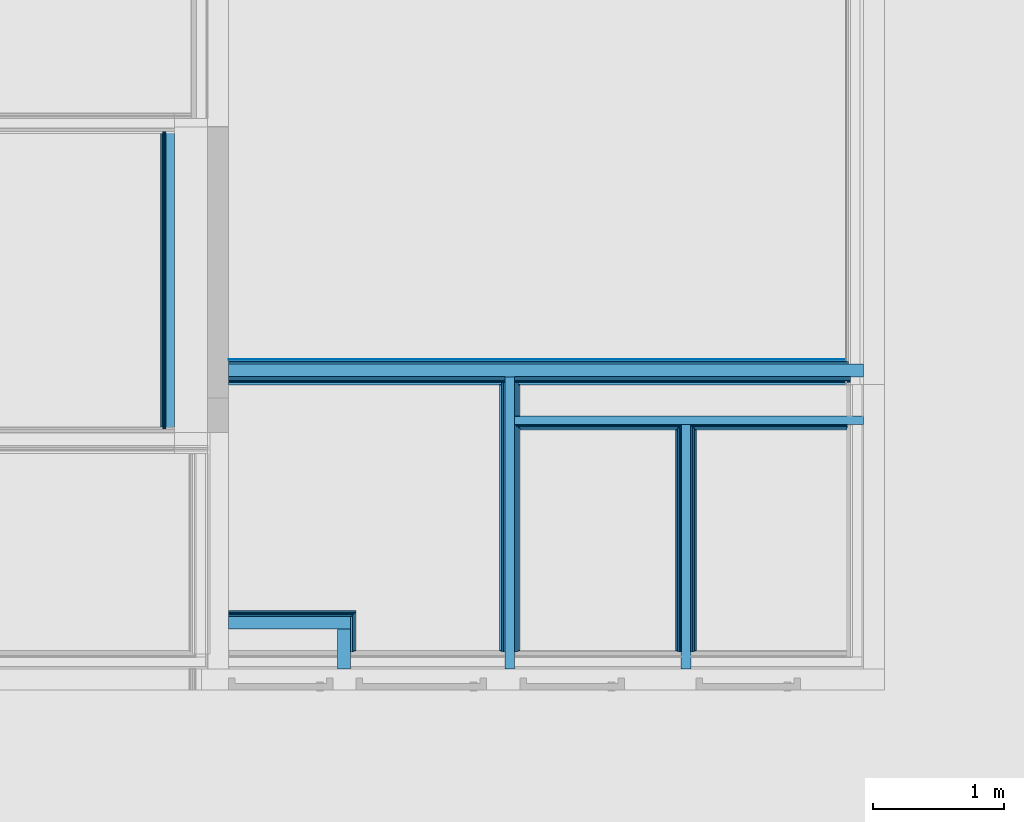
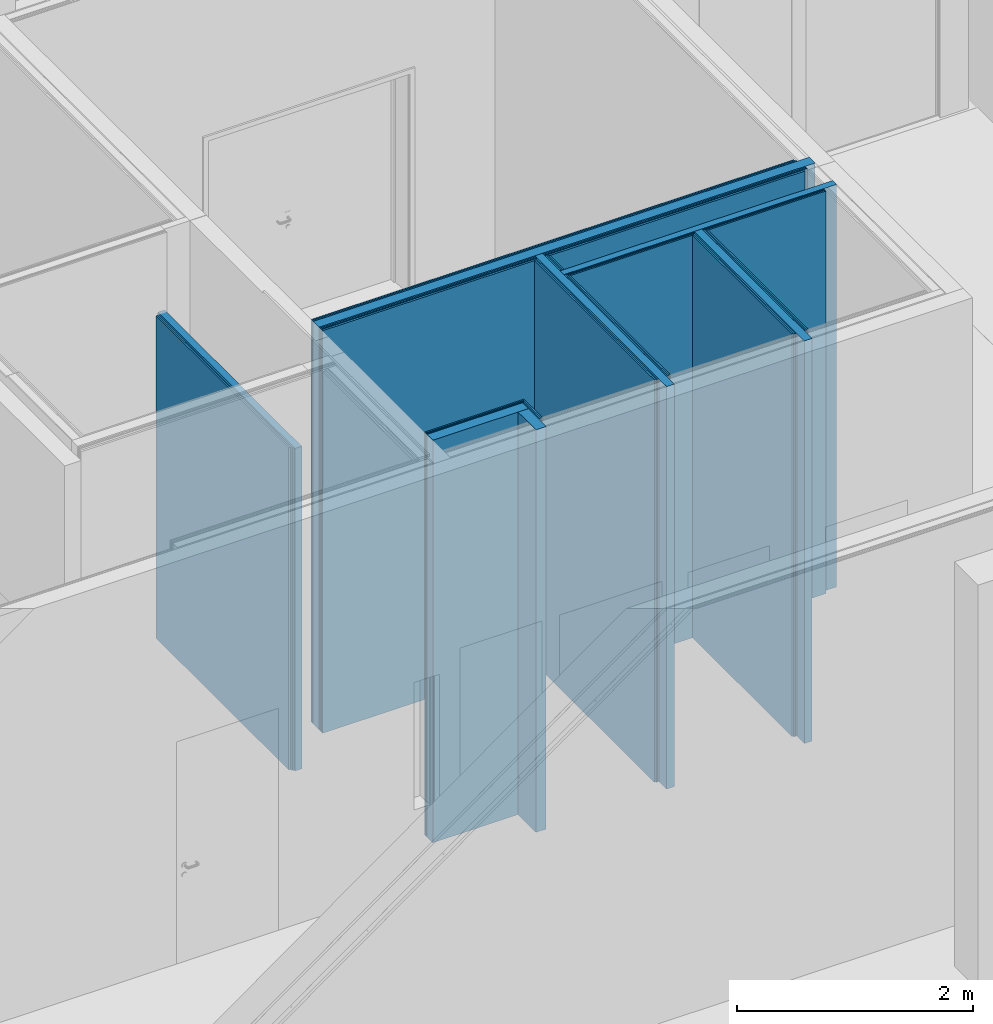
# One storey, part 162 of 260: 38 building element parts, 7 elements without a shape of their own.
"""IFC2X3 building model written with IfcOpenShell, lengths in millimetres."""

from ifc_helpers import new_model, entity, si_unit, converted_unit, derived_unit, money_unit, direction, frame, origin_with_axes, place, context, subcontext, project, spatial, faceted_brep, material, type_object, element, aggregate, save


model = new_model("IFC2X3")

# Units and contexts
model_context = context("Model", 3, precision=0.01, world=origin_with_axes(), true_north=direction((0.0, 1.0)))
body_context = subcontext(model_context, "Body", "Model", "MODEL_VIEW")
ifc_project = project(units=[si_unit("LENGTHUNIT", "METRE", prefix="MILLI"), si_unit("AREAUNIT", "SQUARE_METRE"), si_unit("VOLUMEUNIT", "CUBIC_METRE"), converted_unit("PLANEANGLEUNIT", "DEGREE", entity("IfcPlaneAngleMeasure", 0.0174532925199), si_unit("PLANEANGLEUNIT", "RADIAN"), dimensions=[0, 0, 0, 0, 0, 0, 0]), money_unit("EUR"), converted_unit("TIMEUNIT", "Year", entity("IfcTimeMeasure", 31556926.0), si_unit("TIMEUNIT", "SECOND"), dimensions=[0, 0, 1, 0, 0, 0, 0]), si_unit("MASSUNIT", "GRAM", prefix="KILO"), si_unit("THERMODYNAMICTEMPERATUREUNIT", "DEGREE_CELSIUS"), si_unit("LUMINOUSINTENSITYUNIT", "LUMEN"), si_unit("ENERGYUNIT", "JOULE", prefix="MEGA"), derived_unit("THERMALCONDUCTANCEUNIT", [(si_unit("POWERUNIT", "WATT"), 1), (si_unit("LENGTHUNIT", "METRE"), -1), (si_unit("THERMODYNAMICTEMPERATUREUNIT", "KELVIN"), -1)]), derived_unit("SPECIFICHEATCAPACITYUNIT", [(si_unit("ENERGYUNIT", "JOULE"), 1), (si_unit("MASSUNIT", "GRAM", prefix="KILO"), -1), (si_unit("THERMODYNAMICTEMPERATUREUNIT", "KELVIN"), -1)]), derived_unit("MASSDENSITYUNIT", [(si_unit("MASSUNIT", "GRAM", prefix="KILO"), 1), (si_unit("VOLUMEUNIT", "CUBIC_METRE"), -1)])], contexts=[model_context])

# Site, building, storey
site_placement = place(None, origin_with_axes())
site = spatial("IfcSite", under=ifc_project, at=site_placement, Name="Kolde pst 67a", CompositionType="ELEMENT")
building_placement = place(site_placement, origin_with_axes())
building = spatial("IfcBuilding", under=site, at=building_placement, Name="Riigigümnaasium", CompositionType="ELEMENT")
storey_placement = place(building_placement, origin_with_axes())
storey = spatial("IfcBuildingStorey", under=building, at=storey_placement, Name="1. korrus", CompositionType="ELEMENT", Elevation=0.0)

# Wall, building element parts
wall_type_1 = type_object("IfcWallType", Name="SS-PK-10/3_vill100+dold+värv 195", PredefinedType="NOTDEFINED")
wall_1_placement = place(storey_placement, frame((31890.0027795, 61880.0174288, 0.0), z_axis=(0.0, 0.0, 1.0), x_axis=(-1.0, 0.0, 0.0)))
wall_1 = element("IfcWall", 1, at=wall_1_placement, inside=storey, type_object=wall_type_1, Name="Sisesein")
ifc_material_1 = material(Name="_VIIMISTLUSKIHT - viimistlus vastavalt SA osale")
building_element_part_1_placement = place(wall_1_placement, origin_with_axes())
building_element_part_1 = element("IfcBuildingElementPart", 2, at=building_element_part_1_placement, material=ifc_material_1, Name="_VIIMISTLUSKIHT - viimistlus vastavalt SA osale", context=body_context, shape_type="Brep", body=[
    faceted_brep([(5020.00354947, 175.0, 4170.0), (2930.02917936, 175.0, 4170.0), (2930.02917936, 175.0, 0.0), (5020.00354947, 175.0, 0.0), (2930.02917936, 195.0, 4170.0), (5020.00354947, 195.0, 4170.0), (2930.02917936, 195.0, 0.0), (5020.00354947, 195.0, 0.0)], [[[0, 1, 2, 3]], [[4, 1, 0, 5]], [[1, 4, 6, 2]], [[6, 7, 3, 2]], [[5, 0, 3, 7]], [[4, 5, 7, 6]]]),
    faceted_brep([(2805.02917936, 175.0, 4170.0), (292.0, 175.0, 4170.0), (292.0, 175.0, 0.0), (2805.02917936, 175.0, 0.0), (292.0, 195.0, 4170.0), (2805.02917936, 195.0, 4170.0), (292.0, 195.0, 0.0), (2805.02917936, 195.0, 0.0)], [[[0, 1, 2, 3]], [[4, 1, 0, 5]], [[1, 4, 6, 2]], [[7, 3, 2, 6]], [[5, 0, 3, 7]], [[4, 5, 7, 6]]]),
])
ifc_material_2 = material(Name="_KARKASS - eriprofiilkinnitus vastavalt sisemisele plaatviimistlusele")
building_element_part_2_placement = place(wall_1_placement, origin_with_axes())
building_element_part_2 = element("IfcBuildingElementPart", 3, at=building_element_part_2_placement, material=ifc_material_2, Name="_KARKASS - eriprofiilkinnitus vastavalt sisemisele plaatviimistlusele", context=body_context, shape_type="Brep", body=[
    faceted_brep([(5020.00354947, 165.0, 4170.0), (2905.02917936, 165.0, 4170.0), (2905.02917936, 165.0, 0.0), (5020.00354947, 165.0, 0.0), (2905.02917936, 175.0, 4170.0), (5020.00354947, 175.0, 4170.0), (2905.02917936, 175.0, 0.0), (5020.00354947, 175.0, 0.0)], [[[0, 1, 2, 3]], [[4, 1, 0, 5]], [[1, 4, 6, 2]], [[6, 7, 3, 2]], [[5, 0, 3, 7]], [[4, 5, 7, 6]]]),
    faceted_brep([(2830.02917936, 165.0, 4170.0), (260.0, 165.0, 4170.0), (260.0, 165.0, 0.0), (2830.02917936, 165.0, 0.0), (260.0, 175.0, 4170.0), (2830.02917936, 175.0, 4170.0), (260.0, 175.0, 0.0), (2830.02917936, 175.0, 0.0)], [[[0, 1, 2, 3]], [[4, 1, 0, 5]], [[1, 4, 6, 2]], [[7, 3, 2, 6]], [[5, 0, 3, 7]], [[4, 5, 7, 6]]]),
])
ifc_material_3 = material(Name="_PLAATMATERJAL - tuletõkkekipsplaat, Knauf Red GKF või samaväärne")
building_element_part_3_placement = place(wall_1_placement, origin_with_axes())
building_element_part_3 = element("IfcBuildingElementPart", 4, at=building_element_part_3_placement, material=ifc_material_3, Name="_PLAATMATERJAL - tuletõkkekipsplaat, Knauf Red GKF või samaväärne", context=body_context, shape_type="Brep", body=[
    faceted_brep([(5020.00354947, 150.0, 4170.0), (2905.02917936, 150.0, 4170.0), (2905.02917936, 150.0, 0.0), (5020.00354947, 150.0, 0.0), (2905.02917936, 165.0, 4170.0), (5020.00354947, 165.0, 4170.0), (2905.02917936, 165.0, 0.0), (5020.00354947, 165.0, 0.0)], [[[0, 1, 2, 3]], [[4, 1, 0, 5]], [[1, 4, 6, 2]], [[6, 7, 3, 2]], [[5, 0, 3, 7]], [[4, 5, 7, 6]]]),
    faceted_brep([(2830.02917936, 150.0, 4170.0), (260.0, 150.0, 4170.0), (260.0, 150.0, 0.0), (2830.02917936, 150.0, 0.0), (260.0, 165.0, 4170.0), (2830.02917936, 165.0, 4170.0), (260.0, 165.0, 0.0), (2830.02917936, 165.0, 0.0)], [[[0, 1, 2, 3]], [[4, 1, 0, 5]], [[1, 4, 6, 2]], [[7, 3, 2, 6]], [[5, 0, 3, 7]], [[4, 5, 7, 6]]]),
])
ifc_material_4 = material(Name="_PLAATMATERJAL - OSB3 plaat")
building_element_part_4_placement = place(wall_1_placement, origin_with_axes())
building_element_part_4 = element("IfcBuildingElementPart", 5, at=building_element_part_4_placement, material=ifc_material_4, Name="_PLAATMATERJAL - OSB3 plaat", context=body_context, shape_type="Brep", body=[
    faceted_brep([(5020.00354947, 135.0, 4170.0), (2905.02917936, 135.0, 4170.0), (2905.02917936, 135.0, 0.0), (5020.00354947, 135.0, 0.0), (2905.02917936, 150.0, 4170.0), (5020.00354947, 150.0, 4170.0), (2905.02917936, 150.0, 0.0), (5020.00354947, 150.0, 0.0)], [[[0, 1, 2, 3]], [[4, 1, 0, 5]], [[1, 4, 6, 2]], [[6, 7, 3, 2]], [[5, 0, 3, 7]], [[4, 5, 7, 6]]]),
    faceted_brep([(2830.02917936, 135.0, 4170.0), (260.0, 135.0, 4170.0), (260.0, 135.0, 0.0), (2830.02917936, 135.0, 0.0), (260.0, 150.0, 4170.0), (2830.02917936, 150.0, 4170.0), (260.0, 150.0, 0.0), (2830.02917936, 150.0, 0.0)], [[[0, 1, 2, 3]], [[4, 1, 0, 5]], [[1, 4, 6, 2]], [[7, 3, 2, 6]], [[5, 0, 3, 7]], [[4, 5, 7, 6]]]),
])
ifc_material_5 = material(Name="_KARKASS - puitpruss 100x50mm vertikaalne, samm 600mm, vahel mineraalvill, helineeldetegur αw = 1.0, ISOVER ACOUSTIC 100mm või samaväärne")
building_element_part_5_placement = place(wall_1_placement, origin_with_axes())
building_element_part_5 = element("IfcBuildingElementPart", 6, at=building_element_part_5_placement, material=ifc_material_5, Name="_KARKASS - puitpruss 100x50mm vertikaalne, samm 600mm, vahel mineraalvill, helineeldetegur αw = 1.0, ISOVER ACOUSTIC 100mm või samaväärne", context=body_context, shape_type="Brep", body=[
    faceted_brep([(5020.00354947, 35.0, 4170.0), (160.0, 35.0, 4170.0), (160.0, 35.0, 0.0), (5020.00354947, 35.0, 0.0), (160.0, 135.0, 4170.0), (5020.00354947, 135.0, 4170.0), (160.0, 135.0, 0.0), (5020.00354947, 135.0, 0.0)], [[[0, 1, 2, 3]], [[4, 1, 0, 5]], [[1, 4, 6, 2]], [[6, 7, 3, 2]], [[5, 0, 3, 7]], [[4, 5, 7, 6]]]),
])
building_element_part_6_placement = place(wall_1_placement, origin_with_axes())
building_element_part_6 = element("IfcBuildingElementPart", 7, at=building_element_part_6_placement, material=ifc_material_4, Name="_PLAATMATERJAL - OSB3 plaat", context=body_context, shape_type="Brep", body=[
    faceted_brep([(5020.00354947, 20.0, 4170.0), (275.0, 20.0, 4170.0), (275.0, 20.0, 0.0), (5020.00354947, 20.0, 0.0), (275.0, 35.0, 4170.0), (5020.00354947, 35.0, 4170.0), (275.0, 35.0, 0.0), (5020.00354947, 35.0, 0.0)], [[[0, 1, 2, 3]], [[4, 1, 0, 5]], [[1, 4, 6, 2]], [[6, 7, 3, 2]], [[5, 0, 3, 7]], [[4, 5, 7, 6]]]),
])
building_element_part_7_placement = place(wall_1_placement, origin_with_axes())
building_element_part_7 = element("IfcBuildingElementPart", 8, at=building_element_part_7_placement, material=ifc_material_3, Name="_PLAATMATERJAL - tuletõkkekipsplaat, Knauf Red GKF või samaväärne", context=body_context, shape_type="Brep", body=[
    faceted_brep([(5020.00354947, 5.0, 4170.0), (290.0, 5.0, 4170.0), (290.0, 5.0, 0.0), (5020.00354947, 5.0, 0.0), (290.0, 20.0, 4170.0), (5020.00354947, 20.0, 4170.0), (290.0, 20.0, 0.0), (5020.00354947, 20.0, 0.0)], [[[0, 1, 2, 3]], [[4, 1, 0, 5]], [[1, 4, 6, 2]], [[6, 7, 3, 2]], [[5, 0, 3, 7]], [[4, 5, 7, 6]]]),
])
building_element_part_8_placement = place(wall_1_placement, origin_with_axes())
building_element_part_8 = element("IfcBuildingElementPart", 9, at=building_element_part_8_placement, material=ifc_material_1, Name="_VIIMISTLUSKIHT - viimistlus vastavalt SA osale", context=body_context, shape_type="Brep", body=[
    faceted_brep([(5020.00354947, 0.0, 4170.0), (292.0, 0.0, 4170.0), (292.0, 0.0, 0.0), (5020.00354947, 0.0, 0.0), (292.0, 5.0, 4170.0), (5020.00354947, 5.0, 4170.0), (292.0, 5.0, 0.0), (5020.00354947, 5.0, 0.0)], [[[0, 1, 2, 3]], [[4, 1, 0, 5]], [[1, 4, 6, 2]], [[6, 7, 3, 2]], [[5, 0, 3, 7]], [[4, 5, 7, 6]]]),
])
aggregate(wall_1, [building_element_part_1, building_element_part_2, building_element_part_3, building_element_part_4, building_element_part_5, building_element_part_6, building_element_part_7, building_element_part_8])

wall_type_2 = type_object("IfcWallType", Name="SS-MK-66/3_šahti sein+plaat 106", PredefinedType="NOTDEFINED")
wall_2_placement = place(storey_placement, frame((29099.9736001, 61340.0166181, 0.0), z_axis=(0.0, 0.0, 1.0), x_axis=(1.0, 0.0, 0.0)))
wall_2 = element("IfcWall", 10, at=wall_2_placement, inside=storey, type_object=wall_type_2, Name="Varisein")
ifc_material_6 = material(Name="_KARKASS - metallkarkass CW 75/50, mineraalvill karkassi vahel")
building_element_part_9_placement = place(wall_2_placement, origin_with_axes())
building_element_part_9 = element("IfcBuildingElementPart", 11, at=building_element_part_9_placement, material=ifc_material_6, Name="_KARKASS - metallkarkass CW 75/50, mineraalvill karkassi vahel", context=body_context, shape_type="Brep", body=[
    faceted_brep([(-40.0, 106.0, 4170.0), (2630.02917936, 106.0, 4170.0), (2630.02917936, 106.0, 0.0), (-40.0, 106.0, 0.0), (2630.02917936, 40.0, 4170.0), (-40.0, 40.0, 4170.0), (2630.02917936, 40.0, 0.0), (-40.0, 40.0, 0.0)], [[[0, 1, 2, 3]], [[4, 1, 0, 5]], [[1, 4, 6, 2]], [[2, 6, 7, 3]], [[5, 0, 3, 7]], [[4, 5, 7, 6]]]),
])
ifc_material_7 = material(Name="_PLAATMATERJAL - kipsplaat veekindel")
building_element_part_10_placement = place(wall_2_placement, origin_with_axes())
building_element_part_10 = element("IfcBuildingElementPart", 12, at=building_element_part_10_placement, material=ifc_material_7, Name="_PLAATMATERJAL - kipsplaat veekindel", context=body_context, shape_type="Brep", body=[
    faceted_brep([(1310.02586036, 40.0, 4170.0), (2505.02917936, 40.0, 4170.0), (2505.02917936, 40.0, 0.0), (1310.02586036, 40.0, 0.0), (2505.02917936, 27.5, 4170.0), (1310.02571641, 27.5, 4170.0), (2505.02917936, 27.5, 0.0), (1310.02571641, 27.5, 0.0)], [[[0, 1, 2, 3]], [[4, 1, 0, 5]], [[1, 4, 6, 2]], [[2, 6, 7, 3]], [[5, 0, 3, 7]], [[4, 5, 7, 6]]]),
    faceted_brep([(-27.5, 40.0, 4170.0), (1235.02586035, 40.0, 4170.0), (1235.02586035, 40.0, 0.0), (-27.5, 40.0, 0.0), (1235.0257164, 27.5, 4170.0), (-27.5, 27.5, 4170.0), (1235.0257164, 27.5, 0.0), (-27.5, 27.5, 0.0)], [[[0, 1, 2, 3]], [[4, 1, 0, 5]], [[1, 4, 6, 2]], [[2, 6, 7, 3]], [[5, 0, 3, 7]], [[4, 5, 7, 6]]]),
])
building_element_part_11_placement = place(wall_2_placement, origin_with_axes())
building_element_part_11 = element("IfcBuildingElementPart", 13, at=building_element_part_11_placement, material=ifc_material_7, Name="_PLAATMATERJAL - kipsplaat veekindel", context=body_context, shape_type="Brep", body=[
    faceted_brep([(1322.52571641, 27.5, 4170.0), (2505.02917936, 27.5, 4170.0), (2505.02917936, 27.5, 0.0), (1322.52571641, 27.5, 0.0), (2505.02917936, 15.0, 4170.0), (1322.52557246, 15.0, 4170.0), (2505.02917936, 15.0, 0.0), (1322.52557246, 15.0, 0.0)], [[[0, 1, 2, 3]], [[4, 1, 0, 5]], [[1, 4, 6, 2]], [[2, 6, 7, 3]], [[5, 0, 3, 7]], [[4, 5, 7, 6]]]),
    faceted_brep([(-15.0, 27.5, 4170.0), (1222.5257164, 27.5, 4170.0), (1222.5257164, 27.5, 0.0), (-15.0, 27.5, 0.0), (1222.52557245, 15.0, 4170.0), (-15.0, 15.0, 4170.0), (1222.52557245, 15.0, 0.0), (-15.0, 15.0, 0.0)], [[[0, 1, 2, 3]], [[4, 1, 0, 5]], [[1, 4, 6, 2]], [[2, 6, 7, 3]], [[5, 0, 3, 7]], [[4, 5, 7, 6]]]),
])
building_element_part_12_placement = place(wall_2_placement, origin_with_axes())
building_element_part_12 = element("IfcBuildingElementPart", 14, at=building_element_part_12_placement, material=ifc_material_1, Name="_VIIMISTLUSKIHT - viimistlus vastavalt SA osale", context=body_context, shape_type="Brep", body=[
    faceted_brep([(1335.02557246, 15.0, 4170.0), (2505.02917936, 15.0, 4170.0), (2505.02917936, 15.0, 0.0), (1335.02557246, 15.0, 0.0), (2505.02917936, 0.0, 4170.0), (1335.02539972, 0.0, 4170.0), (2505.02917936, 0.0, 0.0), (1335.02539972, 0.0, 0.0)], [[[0, 1, 2, 3]], [[4, 1, 0, 5]], [[1, 4, 6, 2]], [[2, 6, 7, 3]], [[5, 0, 3, 7]], [[4, 5, 7, 6]]]),
    faceted_brep([(0.0, 15.0, 4170.0), (1210.02557245, 15.0, 4170.0), (1210.02557245, 15.0, 0.0), (0.0, 15.0, 0.0), (1210.02539971, 0.0, 4170.0), (0.0, 0.0, 4170.0), (1210.02539971, 0.0, 0.0), (0.0, 0.0, 0.0)], [[[0, 1, 2, 3]], [[4, 1, 0, 5]], [[1, 4, 6, 2]], [[2, 6, 7, 3]], [[5, 0, 3, 7]], [[4, 5, 7, 6]]]),
])
aggregate(wall_2, [building_element_part_9, building_element_part_10, building_element_part_11, building_element_part_12])

wall_type_3 = type_object("IfcWallType", Name="SS-MK-7,5/1_plaaditud 155", PredefinedType="NOTDEFINED")
wall_3_placement = place(storey_placement, frame((30449.9989998, 61340.0166181, 0.0), z_axis=(0.0, 0.0, 1.0), x_axis=(-1.15159752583e-05, -0.999999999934, 0.0)))
wall_3 = element("IfcWall", 15, at=wall_3_placement, inside=storey, type_object=wall_type_3, Name="Sisesein")
building_element_part_13_placement = place(wall_3_placement, origin_with_axes())
building_element_part_13 = element("IfcBuildingElementPart", 16, at=building_element_part_13_placement, material=ifc_material_1, Name="_VIIMISTLUSKIHT - viimistlus vastavalt SA osale", context=body_context, shape_type="Brep", body=[
    faceted_brep([(1.6147396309e-05, -15.0, 4170.0), (0.0, 0.0, 4170.0), (0.0, 0.0, 0.0), (0.000172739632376, -15.0, 0.0), (1690.0186704, -8.89802009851e-07, 4170.0), (1690.01884314, -15.0, 4170.0), (1690.0186704, 0.0, 0.0), (1690.01884314, -15.0, 0.0)], [[[0, 1, 2, 3]], [[4, 1, 0, 5]], [[1, 4, 6, 2]], [[7, 3, 2, 6]], [[5, 0, 3, 7]], [[4, 5, 7, 6]]]),
])
building_element_part_14_placement = place(wall_3_placement, origin_with_axes())
building_element_part_14 = element("IfcBuildingElementPart", 17, at=building_element_part_14_placement, material=ifc_material_7, Name="_PLAATMATERJAL - kipsplaat veekindel", context=body_context, shape_type="Brep", body=[
    faceted_brep([(-14.9996833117, -27.5, 4170.0), (-14.9998272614, -15.0, 4170.0), (-14.9998272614, -15.0, 0.0), (-14.9996833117, -27.5, 0.0), (1700.01884314, -15.0, 4170.0), (1700.01898709, -27.5, 4170.0), (1700.01884314, -15.0, 0.0), (1700.01898709, -27.5, 0.0)], [[[0, 1, 2, 3]], [[4, 1, 0, 5]], [[1, 4, 6, 2]], [[7, 3, 2, 6]], [[5, 0, 3, 7]], [[4, 5, 7, 6]]]),
])
building_element_part_15_placement = place(wall_3_placement, origin_with_axes())
building_element_part_15 = element("IfcBuildingElementPart", 18, at=building_element_part_15_placement, material=ifc_material_7, Name="_PLAATMATERJAL - kipsplaat veekindel", context=body_context, shape_type="Brep", body=[
    faceted_brep([(-27.4995393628, -40.0, 4170.0), (-27.4996833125, -27.5, 4170.0), (-27.4996833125, -27.5, 0.0), (-27.4995393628, -40.0, 0.0), (1700.01898709, -27.5, 4170.0), (1700.01913104, -40.0, 4170.0), (1700.01898709, -27.5, 0.0), (1700.01913104, -40.0, 0.0)], [[[0, 1, 2, 3]], [[4, 1, 0, 5]], [[1, 4, 6, 2]], [[7, 3, 2, 6]], [[5, 0, 3, 7]], [[4, 5, 7, 6]]]),
])
building_element_part_16_placement = place(wall_3_placement, origin_with_axes())
building_element_part_16 = element("IfcBuildingElementPart", 19, at=building_element_part_16_placement, material=ifc_material_6, Name="_KARKASS - metallkarkass CW 75/50, mineraalvill karkassi vahel", context=body_context, shape_type="Brep", body=[
    faceted_brep([(-39.9986756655, -115.0, 4170.0), (-39.9995393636, -40.0, 4170.0), (-39.9995393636, -40.0, 0.0), (-39.9986756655, -115.0, 0.0), (1830.01913105, -40.0, 4170.0), (1830.01999475, -115.0, 4170.0), (1830.01913105, -40.0, 0.0), (1830.01999475, -115.0, 0.0)], [[[0, 1, 2, 3]], [[4, 1, 0, 5]], [[1, 4, 6, 2]], [[7, 3, 2, 6]], [[5, 0, 3, 7]], [[4, 5, 7, 6]]]),
])
building_element_part_17_placement = place(wall_3_placement, origin_with_axes())
building_element_part_17 = element("IfcBuildingElementPart", 20, at=building_element_part_17_placement, material=ifc_material_7, Name="_PLAATMATERJAL - kipsplaat veekindel", context=body_context, shape_type="Brep", body=[
    faceted_brep([(-27.498531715, -127.5, 4170.0), (-27.4986756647, -115.0, 4170.0), (-27.4986756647, -115.0, 0.0), (-27.498531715, -127.5, 0.0), (1700.01999474, -115.0, 4170.0), (1700.02013869, -127.5, 4170.0), (1700.01999474, -115.0, 0.0), (1700.02013869, -127.5, 0.0)], [[[0, 1, 2, 3]], [[4, 1, 0, 5]], [[1, 4, 6, 2]], [[7, 3, 2, 6]], [[5, 0, 3, 7]], [[4, 5, 7, 6]]]),
])
building_element_part_18_placement = place(wall_3_placement, origin_with_axes())
building_element_part_18 = element("IfcBuildingElementPart", 21, at=building_element_part_18_placement, material=ifc_material_7, Name="_PLAATMATERJAL - kipsplaat veekindel", context=body_context, shape_type="Brep", body=[
    faceted_brep([(-14.9983877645, -140.0, 4170.0), (-14.9985317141, -127.5, 4170.0), (-14.9985317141, -127.5, 0.0), (-14.9983877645, -140.0, 0.0), (1700.02013869, -127.5, 4170.0), (1700.02028264, -140.0, 4170.0), (1700.02013869, -127.5, 0.0), (1700.02028264, -140.0, 0.0)], [[[0, 1, 2, 3]], [[4, 1, 0, 5]], [[1, 4, 6, 2]], [[7, 3, 2, 6]], [[5, 0, 3, 7]], [[4, 5, 7, 6]]]),
])
building_element_part_19_placement = place(wall_3_placement, origin_with_axes())
building_element_part_19 = element("IfcBuildingElementPart", 22, at=building_element_part_19_placement, material=ifc_material_1, Name="_VIIMISTLUSKIHT - viimistlus vastavalt SA osale", context=body_context, shape_type="Brep", body=[
    faceted_brep([(0.00178497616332, -154.99999998, 4170.0), (0.000150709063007, -140.0, 4170.0), (0.00161223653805, -140.0, 0.0), (0.00178497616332, -155.0, 0.0), (1690.02028264, -140.0, 4170.0), (1690.02045538, -155.0, 4170.0), (1690.02028264, -140.0, 0.0), (1690.02045538, -155.0, 0.0)], [[[0, 1, 2, 3]], [[4, 1, 0, 5]], [[1, 4, 6, 2]], [[7, 3, 2, 6]], [[5, 0, 3, 7]], [[4, 5, 7, 6]]]),
])
aggregate(wall_3, [building_element_part_13, building_element_part_14, building_element_part_15, building_element_part_16, building_element_part_17, building_element_part_18, building_element_part_19])

wall_4_placement = place(storey_placement, frame((29099.9736001, 61880.0174288, 0.0), z_axis=(0.0, 0.0, 1.0), x_axis=(0.0, -1.0, 0.0)))
wall_4 = element("IfcWall", 23, at=wall_4_placement, inside=storey, type_object=wall_type_3, Name="Sisesein")
building_element_part_20_placement = place(wall_4_placement, origin_with_axes())
building_element_part_20 = element("IfcBuildingElementPart", 24, at=building_element_part_20_placement, material=ifc_material_1, Name="_VIIMISTLUSKIHT - viimistlus vastavalt SA osale", context=body_context, shape_type="Brep", body=[
    faceted_brep([(525.00081064, -15.0, 4170.0), (525.00081064, -8.89802009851e-07, 4170.0), (525.00081064, 0.0, 0.0), (525.00081064, -15.0, 0.0), (2230.01948093, -8.89802009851e-07, 4170.0), (2230.01948093, -15.0, 4170.0), (2230.01948093, 0.0, 0.0), (2230.01948093, -15.0, 0.0)], [[[0, 1, 2, 3]], [[4, 1, 0, 5]], [[1, 4, 6, 2]], [[7, 3, 2, 6]], [[5, 0, 3, 7]], [[4, 5, 7, 6]]]),
    faceted_brep([(195.0, -15.0, 4170.0), (195.0, -8.89802009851e-07, 4170.0), (195.0, 0.0, 0.0), (195.0, -15.0, 0.0), (434.00081064, -8.89802009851e-07, 4170.0), (434.00081064, -15.0, 4170.0), (434.00081064, 0.0, 0.0), (434.00081064, -15.0, 0.0)], [[[0, 1, 2, 3]], [[4, 1, 0, 5]], [[1, 4, 6, 2]], [[2, 6, 7, 3]], [[5, 0, 3, 7]], [[4, 5, 7, 6]]]),
])
building_element_part_21_placement = place(wall_4_placement, origin_with_axes())
building_element_part_21 = element("IfcBuildingElementPart", 25, at=building_element_part_21_placement, material=ifc_material_7, Name="_PLAATMATERJAL - kipsplaat veekindel", context=body_context, shape_type="Brep", body=[
    faceted_brep([(512.50081064, -27.5, 4170.0), (512.50081064, -15.0, 4170.0), (512.50081064, -15.0, 0.0), (512.50081064, -27.5, 0.0), (2240.01948093, -15.0, 4170.0), (2240.01948093, -27.5, 4170.0), (2240.01948093, -15.0, 0.0), (2240.01948093, -27.5, 0.0)], [[[0, 1, 2, 3]], [[4, 1, 0, 5]], [[1, 4, 6, 2]], [[7, 3, 2, 6]], [[5, 0, 3, 7]], [[4, 5, 7, 6]]]),
    faceted_brep([(175.0, -27.5, 4170.0), (175.0, -15.0, 4170.0), (175.0, -15.0, 0.0), (175.0, -27.5, 0.0), (434.00081064, -15.0, 4170.0), (434.00081064, -27.5, 4170.0), (434.00081064, -15.0, 0.0), (434.00081064, -27.5, 0.0)], [[[0, 1, 2, 3]], [[4, 1, 0, 5]], [[1, 4, 6, 2]], [[2, 6, 7, 3]], [[5, 0, 3, 7]], [[4, 5, 7, 6]]]),
])
building_element_part_22_placement = place(wall_4_placement, origin_with_axes())
building_element_part_22 = element("IfcBuildingElementPart", 26, at=building_element_part_22_placement, material=ifc_material_7, Name="_PLAATMATERJAL - kipsplaat veekindel", context=body_context, shape_type="Brep", body=[
    faceted_brep([(500.00081064, -40.0, 4170.0), (500.00081064, -27.5, 4170.0), (500.00081064, -27.5, 0.0), (500.00081064, -40.0, 0.0), (2240.01948093, -27.5, 4170.0), (2240.01948093, -40.0, 4170.0), (2240.01948093, -27.5, 0.0), (2240.01948093, -40.0, 0.0)], [[[0, 1, 2, 3]], [[4, 1, 0, 5]], [[1, 4, 6, 2]], [[7, 3, 2, 6]], [[5, 0, 3, 7]], [[4, 5, 7, 6]]]),
    faceted_brep([(175.0, -40.0, 4170.0), (175.0, -27.5, 4170.0), (175.0, -27.5, 0.0), (175.0, -40.0, 0.0), (434.00081064, -27.5, 4170.0), (434.00081064, -40.0, 4170.0), (434.00081064, -27.5, 0.0), (434.00081064, -40.0, 0.0)], [[[0, 1, 2, 3]], [[4, 1, 0, 5]], [[1, 4, 6, 2]], [[2, 6, 7, 3]], [[5, 0, 3, 7]], [[4, 5, 7, 6]]]),
])
building_element_part_23_placement = place(wall_4_placement, origin_with_axes())
building_element_part_23 = element("IfcBuildingElementPart", 27, at=building_element_part_23_placement, material=ifc_material_6, Name="_KARKASS - metallkarkass CW 75/50, mineraalvill karkassi vahel", context=body_context, shape_type="Brep", body=[
    faceted_brep([(135.0, -115.0, 4170.0), (135.0, -40.0, 4170.0), (135.0, -40.0, 0.0), (135.0, -115.0, 0.0), (2370.01948093, -40.0, 4170.0), (2370.01948093, -115.0, 4170.0), (2370.01948093, -40.0, 0.0), (2370.01948093, -115.0, 0.0)], [[[0, 1, 2, 3]], [[4, 1, 0, 5]], [[1, 4, 6, 2]], [[7, 3, 2, 6]], [[5, 0, 3, 7]], [[4, 5, 7, 6]]]),
])
building_element_part_24_placement = place(wall_4_placement, origin_with_axes())
building_element_part_24 = element("IfcBuildingElementPart", 28, at=building_element_part_24_placement, material=ifc_material_7, Name="_PLAATMATERJAL - kipsplaat veekindel", context=body_context, shape_type="Brep", body=[
    faceted_brep([(175.0, -127.5, 4170.0), (175.0, -115.0, 4170.0), (175.0, -115.0, 0.0), (175.0, -127.5, 0.0), (2240.01948093, -115.0, 4170.0), (2240.01948093, -127.5, 4170.0), (2240.01948093, -115.0, 0.0), (2240.01948093, -127.5, 0.0)], [[[0, 1, 2, 3]], [[4, 1, 0, 5]], [[1, 4, 6, 2]], [[7, 3, 2, 6]], [[5, 0, 3, 7]], [[4, 5, 7, 6]]]),
])
building_element_part_25_placement = place(wall_4_placement, origin_with_axes())
building_element_part_25 = element("IfcBuildingElementPart", 29, at=building_element_part_25_placement, material=ifc_material_7, Name="_PLAATMATERJAL - kipsplaat veekindel", context=body_context, shape_type="Brep", body=[
    faceted_brep([(175.0, -140.0, 4170.0), (175.0, -127.5, 4170.0), (175.0, -127.5, 0.0), (175.0, -140.0, 0.0), (2240.01948093, -127.5, 4170.0), (2240.01948093, -140.0, 4170.0), (2240.01948093, -127.5, 0.0), (2240.01948093, -140.0, 0.0)], [[[0, 1, 2, 3]], [[4, 1, 0, 5]], [[1, 4, 6, 2]], [[7, 3, 2, 6]], [[5, 0, 3, 7]], [[4, 5, 7, 6]]]),
])
building_element_part_26_placement = place(wall_4_placement, origin_with_axes())
building_element_part_26 = element("IfcBuildingElementPart", 30, at=building_element_part_26_placement, material=ifc_material_1, Name="_VIIMISTLUSKIHT - viimistlus vastavalt SA osale", context=body_context, shape_type="Brep", body=[
    faceted_brep([(195.0, -155.0, 4170.0), (195.0, -140.0, 4170.0), (195.0, -140.0, 0.0), (195.0, -155.0, 0.0), (2230.01948093, -140.0, 4170.0), (2230.01948093, -155.0, 4170.0), (2230.01948093, -140.0, 0.0), (2230.01948093, -155.0, 0.0)], [[[0, 1, 2, 3]], [[4, 1, 0, 5]], [[1, 4, 6, 2]], [[7, 3, 2, 6]], [[5, 0, 3, 7]], [[4, 5, 7, 6]]]),
])
aggregate(wall_4, [building_element_part_20, building_element_part_21, building_element_part_22, building_element_part_23, building_element_part_24, building_element_part_25, building_element_part_26])

wall_5_placement = place(storey_placement, frame((26349.99923, 63764.5132656, 0.0), z_axis=(0.0, 0.0, 1.0), x_axis=(0.0, -1.0, 0.0)))
wall_5 = element("IfcWall", 31, at=wall_5_placement, inside=storey, type_object=wall_type_2, Name="Varisein")
building_element_part_27_placement = place(wall_5_placement, origin_with_axes())
building_element_part_27 = element("IfcBuildingElementPart", 32, at=building_element_part_27_placement, material=ifc_material_6, Name="_KARKASS - metallkarkass CW 75/50, mineraalvill karkassi vahel", context=body_context, shape_type="Brep", body=[
    faceted_brep([(2445.5, 40.0, 0.0), (115.0, 40.0, 0.0), (115.0, 106.0, 0.0), (2445.5, 106.0, 0.0), (2445.5, 40.0, 3340.0), (115.0, 40.0, 3340.0), (115.0, 106.0, 3340.0), (2445.5, 106.0, 3340.0)], [[[0, 1, 2, 3]], [[4, 5, 1, 0]], [[2, 1, 5, 6]], [[3, 2, 6, 7]], [[3, 7, 4, 0]], [[7, 6, 5, 4]]]),
])
building_element_part_28_placement = place(wall_5_placement, origin_with_axes())
building_element_part_28 = element("IfcBuildingElementPart", 33, at=building_element_part_28_placement, material=ifc_material_7, Name="_PLAATMATERJAL - kipsplaat veekindel", context=body_context, shape_type="Brep", body=[
    faceted_brep([(2433.0, 27.5, 0.0), (127.5, 27.5, 0.0), (127.5, 40.0, 0.0), (2433.0, 40.0, 0.0), (2433.0, 27.5, 3340.0), (127.5, 27.5, 3340.0), (127.5, 40.0, 3340.0), (2433.0, 40.0, 3340.0)], [[[0, 1, 2, 3]], [[4, 5, 1, 0]], [[2, 1, 5, 6]], [[3, 2, 6, 7]], [[3, 7, 4, 0]], [[7, 6, 5, 4]]]),
])
building_element_part_29_placement = place(wall_5_placement, origin_with_axes())
building_element_part_29 = element("IfcBuildingElementPart", 34, at=building_element_part_29_placement, material=ifc_material_7, Name="_PLAATMATERJAL - kipsplaat veekindel", context=body_context, shape_type="Brep", body=[
    faceted_brep([(2420.5, 15.0, 0.0), (140.0, 15.0, 0.0), (140.0, 27.5, 0.0), (2420.5, 27.5, 0.0), (2420.5, 15.0, 3340.0), (140.0, 15.0, 3340.0), (140.0, 27.5, 3340.0), (2420.5, 27.5, 3340.0)], [[[0, 1, 2, 3]], [[4, 5, 1, 0]], [[2, 1, 5, 6]], [[3, 2, 6, 7]], [[3, 7, 4, 0]], [[7, 6, 5, 4]]]),
])
building_element_part_30_placement = place(wall_5_placement, origin_with_axes())
building_element_part_30 = element("IfcBuildingElementPart", 35, at=building_element_part_30_placement, material=ifc_material_1, Name="_VIIMISTLUSKIHT - viimistlus vastavalt SA osale", context=body_context, shape_type="Brep", body=[
    faceted_brep([(2405.5, 0.0, 0.0), (155.0, 0.0, 0.0), (155.0, 15.0, 0.0), (2405.5, 15.0, 0.0), (2405.5, 0.0, 3340.0), (155.0, 0.0, 3340.0), (155.0, 15.0, 3340.0), (2405.5, 15.0, 3340.0)], [[[0, 1, 2, 3]], [[4, 5, 1, 0]], [[2, 1, 5, 6]], [[3, 2, 6, 7]], [[3, 7, 4, 0]], [[7, 6, 5, 4]]]),
])
aggregate(wall_5, [building_element_part_27, building_element_part_28, building_element_part_29, building_element_part_30])

wall_type_4 = type_object("IfcWallType", Name="SS-MK-10/2_šahti sein+plaat 140", PredefinedType="NOTDEFINED")
wall_6_placement = place(storey_placement, frame((26869.99923, 59954.9978452, 0.0), z_axis=(0.0, 0.0, 1.0), x_axis=(1.0, 0.0, 0.0)))
wall_6 = element("IfcWall", 36, at=wall_6_placement, inside=storey, type_object=wall_type_4, Name="Sisesein")
building_element_part_31_placement = place(wall_6_placement, origin_with_axes())
building_element_part_31 = element("IfcBuildingElementPart", 37, at=building_element_part_31_placement, material=ifc_material_1, Name="_VIIMISTLUSKIHT - viimistlus vastavalt SA osale", context=body_context, shape_type="Brep", body=[
    faceted_brep([(0.0, 0.0, 4170.0), (975.000054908, 0.0, 4170.0), (975.000054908, 0.0, 0.0), (0.0, 0.0, 0.0), (975.000054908, -15.0, 4170.0), (0.0, -15.0, 4170.0), (975.000054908, -15.0, 0.0), (0.0, -15.0, 0.0)], [[[0, 1, 2, 3]], [[4, 1, 0, 5]], [[1, 4, 6, 2]], [[2, 6, 7, 3]], [[5, 0, 3, 7]], [[4, 5, 7, 6]]]),
])
building_element_part_32_placement = place(wall_6_placement, origin_with_axes())
building_element_part_32 = element("IfcBuildingElementPart", 38, at=building_element_part_32_placement, material=ifc_material_7, Name="_PLAATMATERJAL - kipsplaat veekindel", context=body_context, shape_type="Brep", body=[
    faceted_brep([(0.0, -15.0, 4170.0), (960.000054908, -15.0, 4170.0), (960.000054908, -15.0, 0.0), (0.0, -15.0, 0.0), (960.000054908, -27.5, 4170.0), (0.0, -27.5, 4170.0), (960.000054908, -27.5, 0.0), (0.0, -27.5, 0.0)], [[[0, 1, 2, 3]], [[4, 1, 0, 5]], [[1, 4, 6, 2]], [[2, 6, 7, 3]], [[5, 0, 3, 7]], [[4, 5, 7, 6]]]),
])
building_element_part_33_placement = place(wall_6_placement, origin_with_axes())
building_element_part_33 = element("IfcBuildingElementPart", 39, at=building_element_part_33_placement, material=ifc_material_7, Name="_PLAATMATERJAL - kipsplaat veekindel", context=body_context, shape_type="Brep", body=[
    faceted_brep([(0.0, -27.5, 4170.0), (947.500054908, -27.5, 4170.0), (947.500054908, -27.5, 0.0), (0.0, -27.5, 0.0), (947.500054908, -40.0, 4170.0), (0.0, -40.0, 4170.0), (947.500054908, -40.0, 0.0), (0.0, -40.0, 0.0)], [[[0, 1, 2, 3]], [[4, 1, 0, 5]], [[1, 4, 6, 2]], [[2, 6, 7, 3]], [[5, 0, 3, 7]], [[4, 5, 7, 6]]]),
])
ifc_material_8 = material(Name="_KARKASS - metallkarkass CW 100/50/06 ja UW 100/40/06, samm 600, vahel mineraalvill, helineeldetegur αw = 1.0,  ISOVER ACOUSTIC 100mm või samaväärne")
building_element_part_34_placement = place(wall_6_placement, origin_with_axes())
building_element_part_34 = element("IfcBuildingElementPart", 40, at=building_element_part_34_placement, material=ifc_material_8, Name="_KARKASS - metallkarkass CW 100/50/06 ja UW 100/40/06, samm 600, vahel mineraalvill, helineeldetegur αw = 1.0,  ISOVER ACOUSTIC 100mm või samaväärne", context=body_context, shape_type="Brep", body=[
    faceted_brep([(0.0, -40.0, 4170.0), (935.000054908, -40.0, 4170.0), (935.000054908, -40.0, 0.0), (0.0, -40.0, 0.0), (935.000054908, -140.0, 4170.0), (0.0, -140.0, 4170.0), (935.000054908, -140.0, 0.0), (0.0, -140.0, 0.0)], [[[0, 1, 2, 3]], [[4, 1, 0, 5]], [[1, 4, 6, 2]], [[2, 6, 7, 3]], [[5, 0, 3, 7]], [[4, 5, 7, 6]]]),
])
aggregate(wall_6, [building_element_part_31, building_element_part_32, building_element_part_33, building_element_part_34])

wall_7_placement = place(storey_placement, frame((27844.9992849, 59954.9978452, 0.0), z_axis=(0.0, 0.0, 1.0), x_axis=(0.0, -1.0, 0.0)))
wall_7 = element("IfcWall", 41, at=wall_7_placement, inside=storey, type_object=wall_type_4, Name="Sisesein")
building_element_part_35_placement = place(wall_7_placement, origin_with_axes())
building_element_part_35 = element("IfcBuildingElementPart", 42, at=building_element_part_35_placement, material=ifc_material_1, Name="_VIIMISTLUSKIHT - viimistlus vastavalt SA osale", context=body_context, shape_type="Brep", body=[
    faceted_brep([(15.0, -15.0, 4170.0), (15.0, 0.0, 4170.0), (15.0, 0.0, 0.0), (15.0, -15.0, 0.0), (304.999897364, 1.18640741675e-06, 4170.0), (304.999897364, -15.0, 4170.0), (304.999897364, 0.0, 0.0), (304.999897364, -15.0, 0.0)], [[[0, 1, 2, 3]], [[4, 1, 0, 5]], [[1, 4, 6, 2]], [[7, 3, 2, 6]], [[5, 0, 3, 7]], [[4, 5, 7, 6]]]),
])
building_element_part_36_placement = place(wall_7_placement, origin_with_axes())
building_element_part_36 = element("IfcBuildingElementPart", 43, at=building_element_part_36_placement, material=ifc_material_7, Name="_PLAATMATERJAL - kipsplaat veekindel", context=body_context, shape_type="Brep", body=[
    faceted_brep([(27.5, -27.5, 4170.0), (27.5, -15.0, 4170.0), (27.5, -15.0, 0.0), (27.5, -27.5, 0.0), (314.999897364, -15.0, 4170.0), (314.999897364, -27.5, 4170.0), (314.999897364, -15.0, 0.0), (314.999897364, -27.5, 0.0)], [[[0, 1, 2, 3]], [[4, 1, 0, 5]], [[1, 4, 6, 2]], [[7, 3, 2, 6]], [[5, 0, 3, 7]], [[4, 5, 7, 6]]]),
])
building_element_part_37_placement = place(wall_7_placement, origin_with_axes())
building_element_part_37 = element("IfcBuildingElementPart", 44, at=building_element_part_37_placement, material=ifc_material_7, Name="_PLAATMATERJAL - kipsplaat veekindel", context=body_context, shape_type="Brep", body=[
    faceted_brep([(40.0, -40.0, 4170.0), (40.0, -27.5, 4170.0), (40.0, -27.5, 0.0), (40.0, -40.0, 0.0), (314.999897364, -27.5, 4170.0), (314.999897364, -40.0, 4170.0), (314.999897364, -27.5, 0.0), (314.999897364, -40.0, 0.0)], [[[0, 1, 2, 3]], [[4, 1, 0, 5]], [[1, 4, 6, 2]], [[7, 3, 2, 6]], [[5, 0, 3, 7]], [[4, 5, 7, 6]]]),
])
building_element_part_38_placement = place(wall_7_placement, origin_with_axes())
building_element_part_38 = element("IfcBuildingElementPart", 45, at=building_element_part_38_placement, material=ifc_material_8, Name="_KARKASS - metallkarkass CW 100/50/06 ja UW 100/40/06, samm 600, vahel mineraalvill, helineeldetegur αw = 1.0,  ISOVER ACOUSTIC 100mm või samaväärne", context=body_context, shape_type="Brep", body=[
    faceted_brep([(140.0, -140.0, 4170.0), (140.0, -40.0, 4170.0), (140.0, -40.0, 0.0), (140.0, -140.0, 0.0), (444.999897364, -40.0, 4170.0), (444.999897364, -140.0, 4170.0), (444.999897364, -40.0, 0.0), (444.999897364, -140.0, 0.0)], [[[0, 1, 2, 3]], [[4, 1, 0, 5]], [[1, 4, 6, 2]], [[7, 3, 2, 6]], [[5, 0, 3, 7]], [[4, 5, 7, 6]]]),
])
aggregate(wall_7, [building_element_part_35, building_element_part_36, building_element_part_37, building_element_part_38])

save(model, "model.ifc")
